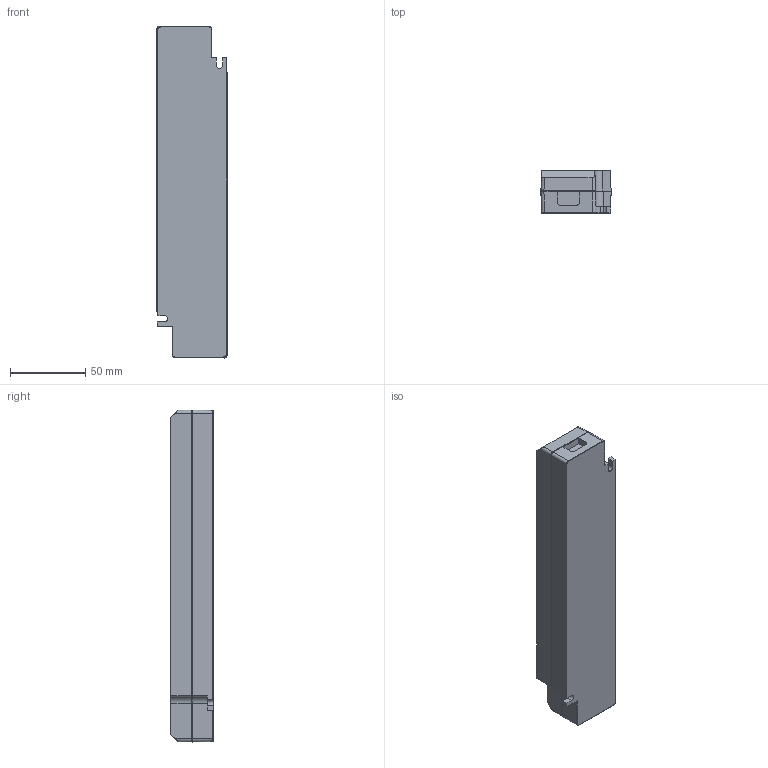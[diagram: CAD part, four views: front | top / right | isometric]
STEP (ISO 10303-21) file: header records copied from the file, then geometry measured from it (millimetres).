
FILE_DESCRIPTION (( 'STEP AP203' ), '1' );
FILE_NAME ('ll1x40-e-cc.STEP', '2018-05-17T08:58:38', ( '' ), ( '' ), 'SwSTEP 2.0', 'SolidWorks 2014', '' );
FILE_SCHEMA (( 'CONFIG_CONTROL_DESIGN' ));
Length unit declared in the file: millimetre
Products named in the file (1): ll1x40-e-cc
Bounding box: 46.5 x 28 x 220 mm (x, y, z)
Volume: 263682.5 mm3; surface area: 34652.5 mm2
Topology: 1 solids, 1 shells, 95 faces, 261 edges, 170 vertices
Faces by surface type: plane 56, cylinder 35, bspline 4
Entity records: 3237 total; most frequent: CARTESIAN_POINT 841, ORIENTED_EDGE 522, DIRECTION 439, EDGE_CURVE 261, VECTOR 187, LINE 187, VERTEX_POINT 170, AXIS2_PLACEMENT_3D 126
